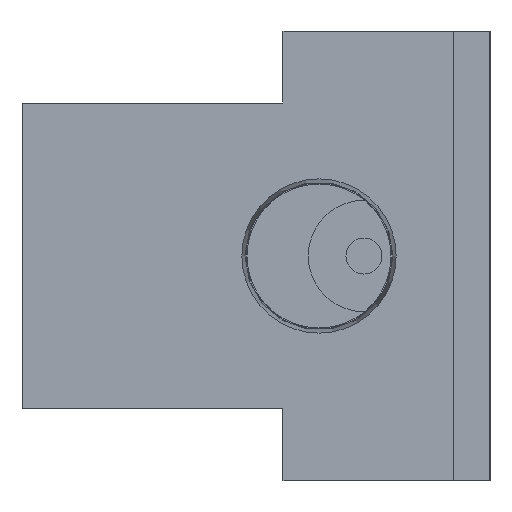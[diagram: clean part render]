
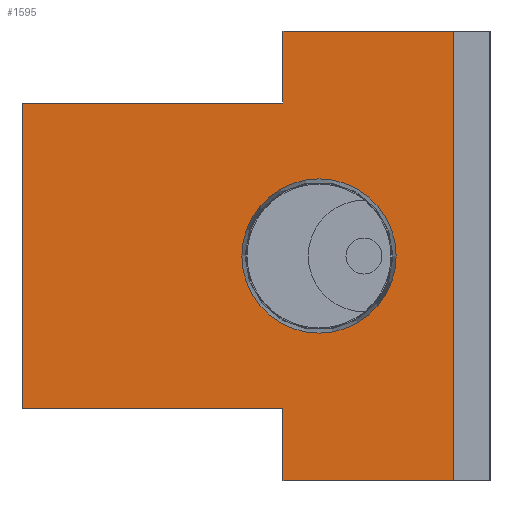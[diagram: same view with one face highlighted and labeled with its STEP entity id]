
A CAD part, left-side view. The second image highlights one B-rep face of the part: STEP entity #1595.
In plain terms, the highlighted planar face has unit normal (-1, 0, 0).
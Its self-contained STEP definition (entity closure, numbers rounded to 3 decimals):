
#1595 = ADVANCED_FACE( '', ( #3243, #3244 ), #3245, .F. );
#3243 = FACE_BOUND( '', #4858, .T. );
#3244 = FACE_OUTER_BOUND( '', #4859, .T. );
#3245 = PLANE( '', #4860 );
#4858 = EDGE_LOOP( '', ( #8827 ) );
#4859 = EDGE_LOOP( '', ( #8828, #8829, #8830, #8831, #8832, #8833, #8834, #8835 ) );
#4860 = AXIS2_PLACEMENT_3D( '', #8836, #8837, #8838 );
#8827 = ORIENTED_EDGE( '', *, *, #9878, .T. );
#8828 = ORIENTED_EDGE( '', *, *, #9207, .F. );
#8829 = ORIENTED_EDGE( '', *, *, #9399, .F. );
#8830 = ORIENTED_EDGE( '', *, *, #10113, .F. );
#8831 = ORIENTED_EDGE( '', *, *, #9908, .F. );
#8832 = ORIENTED_EDGE( '', *, *, #9175, .F. );
#8833 = ORIENTED_EDGE( '', *, *, #10361, .F. );
#8834 = ORIENTED_EDGE( '', *, *, #9726, .F. );
#8835 = ORIENTED_EDGE( '', *, *, #10592, .F. );
#8836 = CARTESIAN_POINT( '', ( 0., 0., 0. ) );
#8837 = DIRECTION( '', ( 1., 0., 0. ) );
#8838 = DIRECTION( '', ( 0., 0., -1. ) );
#9175 = EDGE_CURVE( '', #10851, #10853, #10854, .T. );
#9207 = EDGE_CURVE( '', #10908, #10910, #10911, .T. );
#9399 = EDGE_CURVE( '', #11232, #10908, #11234, .T. );
#9726 = EDGE_CURVE( '', #11775, #11777, #11778, .T. );
#9878 = EDGE_CURVE( '', #12008, #12008, #12009, .T. );
#9908 = EDGE_CURVE( '', #10853, #12055, #12056, .T. );
#10113 = EDGE_CURVE( '', #12055, #11232, #12353, .T. );
#10361 = EDGE_CURVE( '', #11777, #10851, #12687, .T. );
#10592 = EDGE_CURVE( '', #10910, #11775, #12944, .T. );
#10851 = VERTEX_POINT( '', #13290 );
#10853 = VERTEX_POINT( '', #13293 );
#10854 = LINE( '', #13294, #13295 );
#10908 = VERTEX_POINT( '', #13366 );
#10910 = VERTEX_POINT( '', #13369 );
#10911 = LINE( '', #13370, #13371 );
#11232 = VERTEX_POINT( '', #13817 );
#11234 = LINE( '', #13820, #13821 );
#11775 = VERTEX_POINT( '', #14581 );
#11777 = VERTEX_POINT( '', #14584 );
#11778 = LINE( '', #14585, #14586 );
#12008 = VERTEX_POINT( '', #14912 );
#12009 = CIRCLE( '', #14913, 4.283 );
#12055 = VERTEX_POINT( '', #14980 );
#12056 = LINE( '', #14981, #14982 );
#12353 = LINE( '', #15409, #15410 );
#12687 = LINE( '', #15881, #15882 );
#12944 = LINE( '', #16240, #16241 );
#13290 = CARTESIAN_POINT( '', ( 0., 9.5, -12.5 ) );
#13293 = CARTESIAN_POINT( '', ( 0., 9.5, -8.5 ) );
#13294 = CARTESIAN_POINT( '', ( 0., 9.5, -12.5 ) );
#13295 = VECTOR( '', #16408, 1000. );
#13366 = CARTESIAN_POINT( '', ( 0., 9.5, 8.5 ) );
#13369 = CARTESIAN_POINT( '', ( 0., 9.5, 12.5 ) );
#13370 = CARTESIAN_POINT( '', ( 0., 9.5, 8.5 ) );
#13371 = VECTOR( '', #16445, 1000. );
#13817 = CARTESIAN_POINT( '', ( 0., 24., 8.5 ) );
#13820 = CARTESIAN_POINT( '', ( 0., 24., 8.5 ) );
#13821 = VECTOR( '', #16641, 1000. );
#14581 = CARTESIAN_POINT( '', ( 0., 0., 12.5 ) );
#14584 = CARTESIAN_POINT( '', ( 0., 0., -12.5 ) );
#14585 = CARTESIAN_POINT( '', ( 0., 0., 12.5 ) );
#14586 = VECTOR( '', #16973, 1000. );
#14912 = CARTESIAN_POINT( '', ( 0., 11.783, 0. ) );
#14913 = AXIS2_PLACEMENT_3D( '', #17115, #17116, #17117 );
#14980 = CARTESIAN_POINT( '', ( 0., 24., -8.5 ) );
#14981 = CARTESIAN_POINT( '', ( 0., 9.5, -8.5 ) );
#14982 = VECTOR( '', #17142, 1000. );
#15409 = CARTESIAN_POINT( '', ( 0., 24., -8.5 ) );
#15410 = VECTOR( '', #17327, 1000. );
#15881 = CARTESIAN_POINT( '', ( 0., 0., -12.5 ) );
#15882 = VECTOR( '', #17546, 1000. );
#16240 = CARTESIAN_POINT( '', ( 0., 9.5, 12.5 ) );
#16241 = VECTOR( '', #17675, 1000. );
#16408 = DIRECTION( '', ( 0., 0., 1. ) );
#16445 = DIRECTION( '', ( 0., 0., 1. ) );
#16641 = DIRECTION( '', ( 0., -1., 0. ) );
#16973 = DIRECTION( '', ( 0., 0., -1. ) );
#17115 = CARTESIAN_POINT( '', ( 0., 7.5, 0. ) );
#17116 = DIRECTION( '', ( 1., 0., 0. ) );
#17117 = DIRECTION( '', ( 0., 1., 0. ) );
#17142 = DIRECTION( '', ( 0., 1., 0. ) );
#17327 = DIRECTION( '', ( 0., 0., 1. ) );
#17546 = DIRECTION( '', ( 0., 1., 0. ) );
#17675 = DIRECTION( '', ( 0., -1., 0. ) );
